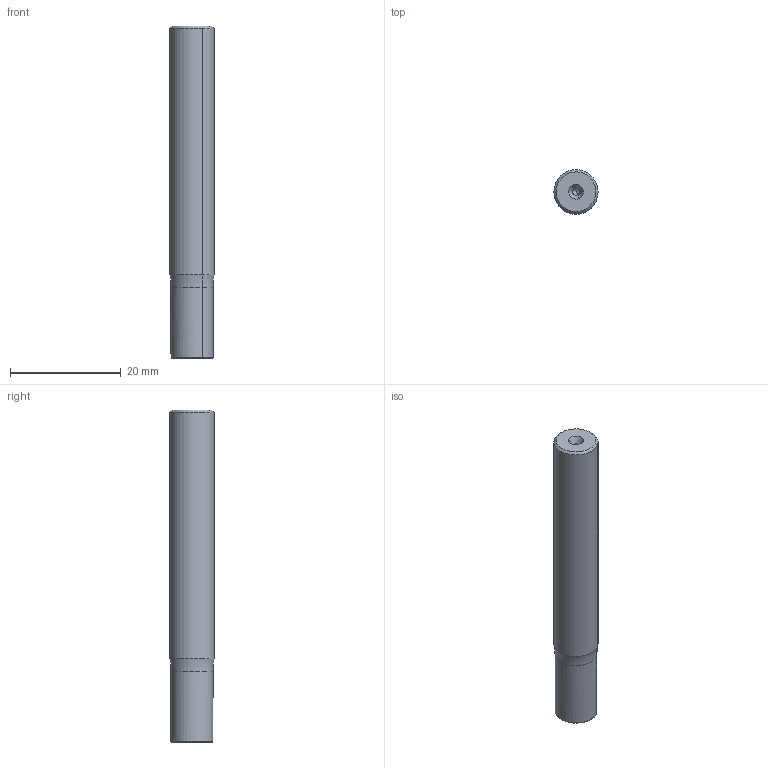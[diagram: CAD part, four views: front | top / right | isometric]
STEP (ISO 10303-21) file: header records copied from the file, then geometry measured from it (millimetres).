
FILE_DESCRIPTION(('CATIA V5 STEP','CAx-IF Rec.Pracs.--- Model Styling and Organization---1.2---2011-12-15'),'2;1');
FILE_NAME('I:\isr\design\admin8\users\weaam_s\3103051D.stp','2017-03-16T09:13:12+00:00',('none'),('none'),'CATIA Version 5 Release 21 SP 5 (IN-10)','CATIA V5 STEP AP214','none');
FILE_SCHEMA(('AUTOMOTIVE_DESIGN { 1 0 10303 214 1 1 1 1 }'));
Length unit declared in the file: millimetre
Products named in the file (1): MM S-A-L060-C08-T05
Bounding box: 8 x 8 x 60 mm (x, y, z)
Volume: 2786 mm3; surface area: 1712.4 mm2
Topology: 1 solids, 1 shells, 29 faces, 62 edges, 34 vertices
Faces by surface type: cone 12, cylinder 10, torus 4, plane 3
Entity records: 899 total; most frequent: CARTESIAN_POINT 250, ORIENTED_EDGE 116, DIRECTION 113, AXIS2_PLACEMENT_3D 60, EDGE_CURVE 58, VERTEX_POINT 34, EDGE_LOOP 32, ADVANCED_FACE 29
